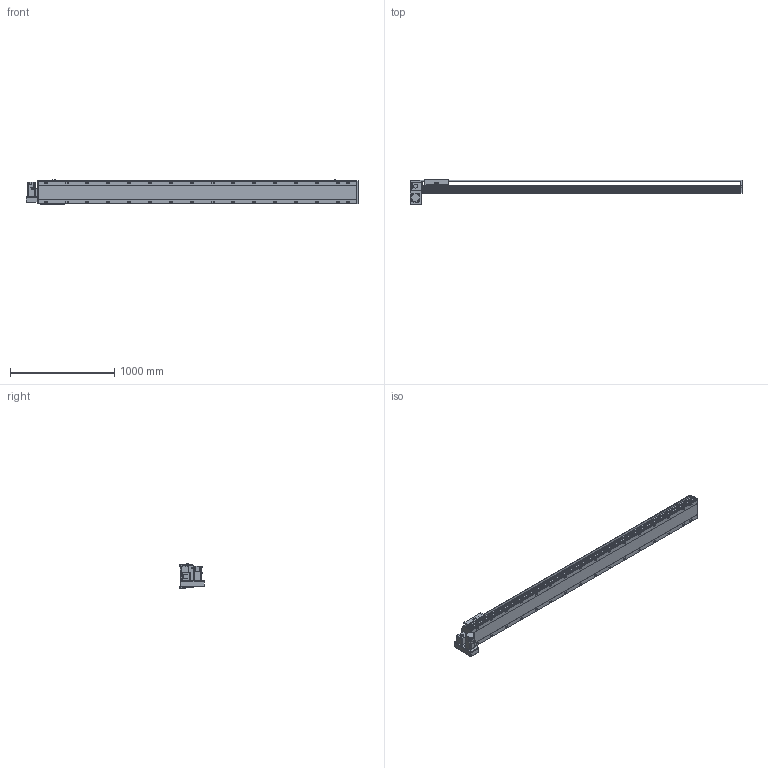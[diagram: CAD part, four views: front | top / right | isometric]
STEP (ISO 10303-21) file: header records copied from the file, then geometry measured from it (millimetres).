
FILE_DESCRIPTION(/* description */ ('STEP AP214'),/* implementation_level */ '2;1');
FILE_NAME(/* name */ 'PBS220-P40-S2700-LD-T75-C1-N(0)',/* time_stamp */ '2022-06-27T09:46:35+02:00',/* author */ ('License CC BY-ND 4.0'),/* organization */ ('CADENAS'),/* preprocessor_version */ 'ST-DEVELOPER v18.102',/* originating_system */ 'PARTsolutions',/* authorisation */ ' ');
FILE_SCHEMA (('AUTOMOTIVE_DESIGN {1 0 10303 214 3 1 1}'));
Length unit declared in the file: millimetre
Products named in the file (7): PBS220-P40-S2700-LD-T75-C1-N(0); PBS220_sensor; PBS220_plant; PBS220_sliser; T75-p1; PBS220T-LD_motors; PBS220-S2700()_body
Assembly tree (8 placements, depth 2):
  PBS220-P40-S2700-LD-T75-C1-N(0)
    PBS220_sensor  x3
    PBS220_plant
    PBS220_sliser
    T75-p1
    PBS220T-LD_motors
    PBS220-S2700()_body
Bounding box: 3184 x 239 x 238.5 mm (x, y, z)
Volume: 44349341.7 mm3; surface area: 4049447.5 mm2
Topology: 8 solids, 8 shells, 1010 faces, 2620 edges, 1702 vertices
Faces by surface type: plane 630, cylinder 324, cone 56
Full cylindrical faces by diameter (mm): 2.013 x4, 4.5 x14, 4.917 x4, 6 x7, 6.647 x8, 8 x10, 8.376 x32, 8.5 x32, 10 x6, 14 x32, 38 x2, 40 x1, 70 x1
Entity records: 28124 total; most frequent: CARTESIAN_POINT 5020, DIRECTION 4887, ORIENTED_EDGE 4394, EDGE_CURVE 2197, AXIS2_PLACEMENT_3D 1763, VERTEX_POINT 1544, LINE 1361, VECTOR 1361
